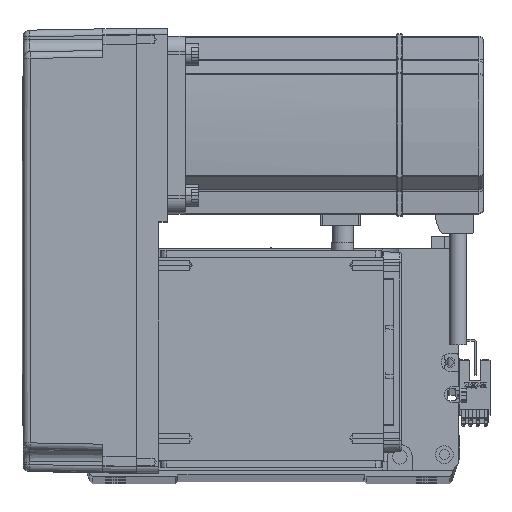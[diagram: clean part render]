
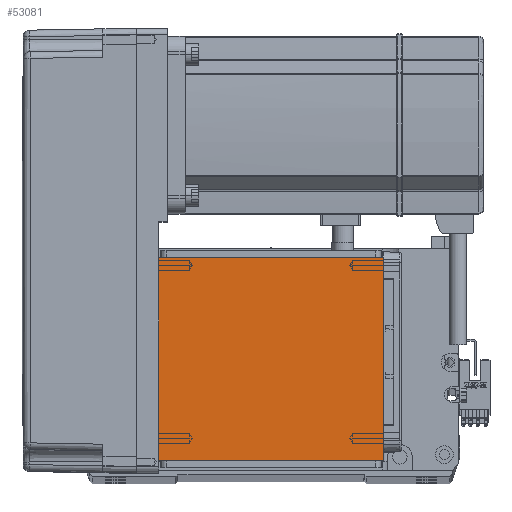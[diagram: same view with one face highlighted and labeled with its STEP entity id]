
A CAD part, top view. The second image highlights one B-rep face of the part: STEP entity #53081.
In plain terms, the highlighted planar face has unit normal (0, 0, 1).
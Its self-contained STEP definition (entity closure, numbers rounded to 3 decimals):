
#1574 = DIRECTION ( 'NONE',  ( 0., 1., 0. ) ) ;
#2053 = AXIS2_PLACEMENT_3D ( 'NONE', #21232, #35421, #30890 ) ;
#2214 = CARTESIAN_POINT ( 'NONE',  ( 50.5, 111.5, 115. ) ) ;
#6884 = LINE ( 'NONE', #6977, #43072 ) ;
#6977 = CARTESIAN_POINT ( 'NONE',  ( -70.004, 111.5, 115. ) ) ;
#6981 = PLANE ( 'NONE',  #2053 ) ;
#7132 = EDGE_CURVE ( 'NONE', #58973, #37274, #48715, .T. ) ;
#9829 = EDGE_CURVE ( 'NONE', #58973, #24418, #6884, .T. ) ;
#11372 = ORIENTED_EDGE ( 'NONE', *, *, #7132, .T. ) ;
#15184 = CARTESIAN_POINT ( 'NONE',  ( -50.5, 122., 115. ) ) ;
#21232 = CARTESIAN_POINT ( 'NONE',  ( 0., 0., 115. ) ) ;
#23430 = VECTOR ( 'NONE', #1574, 1000. ) ;
#24418 = VERTEX_POINT ( 'NONE', #2214 ) ;
#25023 = ORIENTED_EDGE ( 'NONE', *, *, #27686, .T. ) ;
#25728 = CARTESIAN_POINT ( 'NONE',  ( 50.5, 20., 115. ) ) ;
#26808 = VERTEX_POINT ( 'NONE', #25728 ) ;
#27068 = FACE_OUTER_BOUND ( 'NONE', #58164, .T. ) ;
#27686 = EDGE_CURVE ( 'NONE', #26808, #24418, #40360, .T. ) ;
#28932 = CARTESIAN_POINT ( 'NONE',  ( -50.5, 111.5, 115. ) ) ;
#29183 = DIRECTION ( 'NONE',  ( 0., -1., 0. ) ) ;
#29636 = CARTESIAN_POINT ( 'NONE',  ( 50.5, 122., 115. ) ) ;
#30870 = ORIENTED_EDGE ( 'NONE', *, *, #32943, .F. ) ;
#30890 = DIRECTION ( 'NONE',  ( 1., 0., 0. ) ) ;
#32943 = EDGE_CURVE ( 'NONE', #26808, #37274, #44776, .T. ) ;
#32957 = VECTOR ( 'NONE', #35455, 1000. ) ;
#35421 = DIRECTION ( 'NONE',  ( 0., 0., 1. ) ) ;
#35455 = DIRECTION ( 'NONE',  ( -1., 0., 0. ) ) ;
#37274 = VERTEX_POINT ( 'NONE', #43567 ) ;
#40360 = LINE ( 'NONE', #29636, #23430 ) ;
#40368 = DIRECTION ( 'NONE',  ( 1., 0., 0. ) ) ;
#43072 = VECTOR ( 'NONE', #40368, 1000. ) ;
#43567 = CARTESIAN_POINT ( 'NONE',  ( -50.5, 20., 115. ) ) ;
#44776 = LINE ( 'NONE', #54272, #32957 ) ;
#44805 = ORIENTED_EDGE ( 'NONE', *, *, #9829, .F. ) ;
#48715 = LINE ( 'NONE', #15184, #59830 ) ;
#53081 = ADVANCED_FACE ( 'NONE', ( #27068 ), #6981, .T. ) ;
#54272 = CARTESIAN_POINT ( 'NONE',  ( -70.004, 20., 115. ) ) ;
#58164 = EDGE_LOOP ( 'NONE', ( #44805, #11372, #30870, #25023 ) ) ;
#58973 = VERTEX_POINT ( 'NONE', #28932 ) ;
#59830 = VECTOR ( 'NONE', #29183, 1000. ) ;
